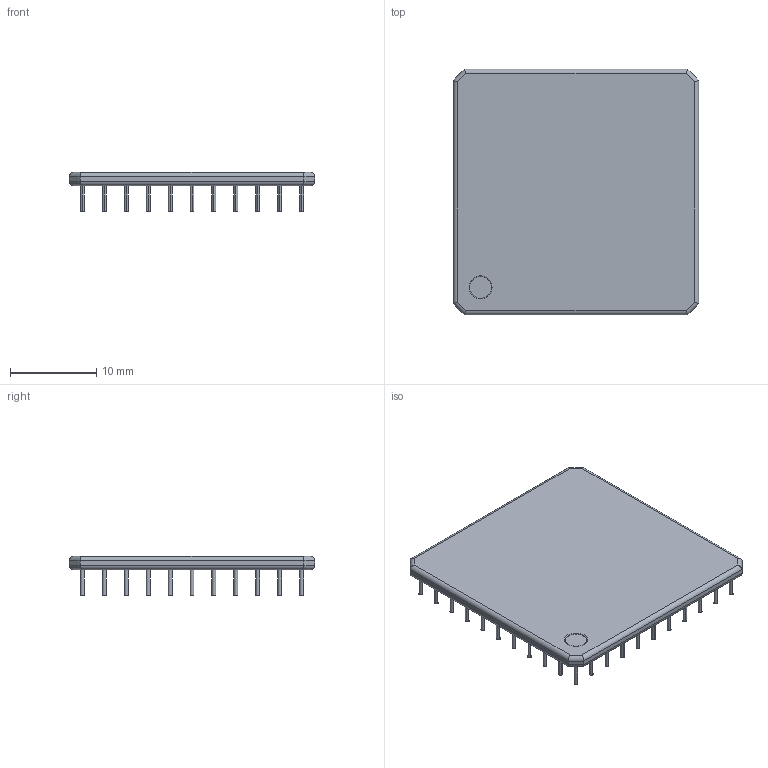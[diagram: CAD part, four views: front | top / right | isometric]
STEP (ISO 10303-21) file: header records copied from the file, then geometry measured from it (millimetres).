
FILE_DESCRIPTION (( 'STEP AP214' ), '1' );
FILE_NAME ( 'PGA121P254C11R11L2845X2845H254.STEP', '2021-10-06T06:48:58', ( '' ), ( '' ), '', '©2017 PCB Libraries, Inc.', '' );
FILE_SCHEMA (( 'AUTOMOTIVE_DESIGN' ));
Length unit declared in the file: millimetre
Products named in the file (1): PGA121P254C11R11L2845X2845H254
Bounding box: 28.45 x 28.45 x 4.54 mm (x, y, z)
Volume: 1287.5 mm3; surface area: 2286.2 mm2
Topology: 122 solids, 122 shells, 515 faces, 792 edges, 522 vertices
Faces by surface type: cylinder 260, plane 253, torus 2
Entity records: 14246 total; most frequent: DIRECTION 2300, CARTESIAN_POINT 1878, ORIENTED_EDGE 1584, AXIS2_PLACEMENT_3D 1008, EDGE_CURVE 792, STYLED_ITEM 638, PRESENTATION_LAYER_ASSIGNMENT 638, MECHANICAL_DESIGN_GEOMETRIC_PRESENTATION_REPRESENTATION 638
